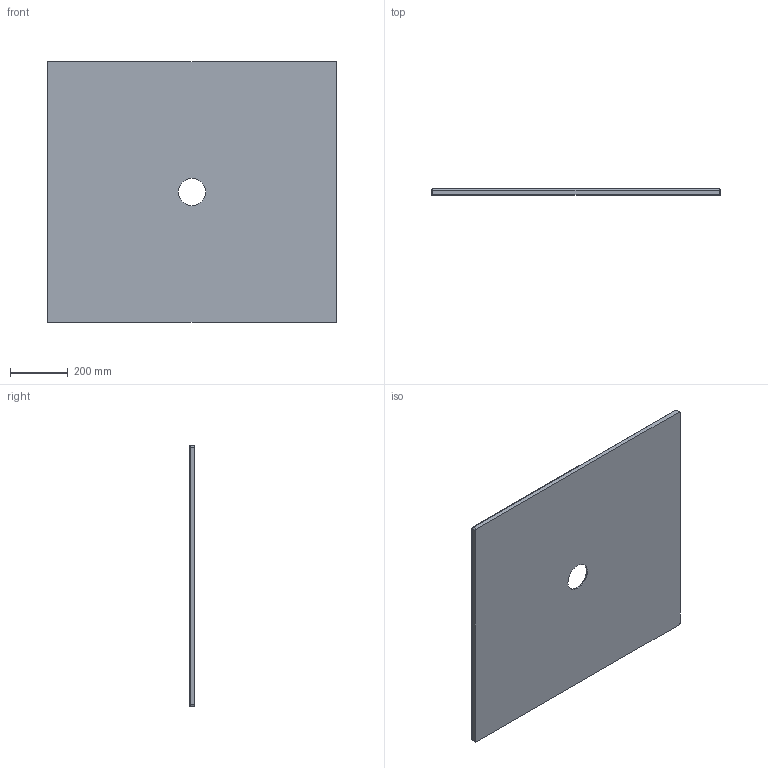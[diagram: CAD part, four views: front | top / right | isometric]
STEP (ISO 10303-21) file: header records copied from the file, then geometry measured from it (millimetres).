
FILE_DESCRIPTION (( 'STEP AP203' ), '1' );
FILE_NAME ('SDPD10009020.STEP', '2025-05-05T08:11:07', ( '' ), ( '' ), 'SwSTEP 2.0', 'SolidWorks 2024', '' );
FILE_SCHEMA (( 'CONFIG_CONTROL_DESIGN' ));
Length unit declared in the file: millimetre
Products named in the file (1): SDPD10009020
Bounding box: 1000 x 20 x 900 mm (x, y, z)
Volume: 14819602.6 mm3; surface area: 1810098.9 mm2
Topology: 1 solids, 1 shells, 26 faces, 53 edges, 31 vertices
Faces by surface type: cylinder 9, plane 8, sphere 4, bspline 2, torus 2, cone 1
Full cylindrical faces by diameter (mm): 95 x1
Entity records: 3074 total; most frequent: CARTESIAN_POINT 2493, DIRECTION 108, ORIENTED_EDGE 90, EDGE_CURVE 45, AXIS2_PLACEMENT_3D 44, EDGE_LOOP 36, FACE_OUTER_BOUND 31, VERTEX_POINT 29
